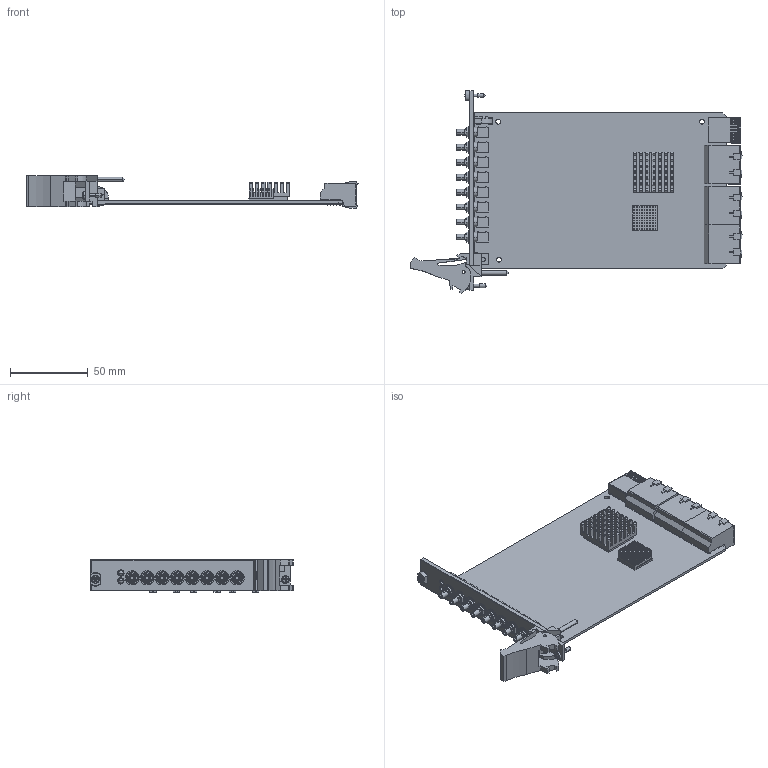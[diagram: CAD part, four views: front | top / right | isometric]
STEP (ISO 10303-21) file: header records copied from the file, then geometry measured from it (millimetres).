
FILE_DESCRIPTION((''),'2;1');
FILE_NAME('CU_PXIE-6672','2012-04-10T',('stgill'),(''),'PRO/ENGINEER BY PARAMETRIC TECHNOLOGY CORPORATION, 2010230','PRO/ENGINEER BY PARAMETRIC TECHNOLOGY CORPORATION, 2010230','');
FILE_SCHEMA(('CONFIG_CONTROL_DESIGN'));
Products named in the file (1): CU_PXIE-6672
Bounding box: 213.82 x 130.5 x 20.78 mm (x, y, z)
Volume: 81117.1 mm3; surface area: 65832.5 mm2
Topology: 2 solids, 2 shells, 6325 faces, 17115 edges, 11244 vertices
Faces by surface type: plane 5666, cylinder 571, cone 74, sphere 10, torus 4
Entity records: 208359 total; most frequent: CARTESIAN_POINT 51772, ORIENTED_EDGE 34214, DIRECTION 28379, EDGE_CURVE 17107, VECTOR 12953, LINE 12953, VERTEX_POINT 11244, AXIS2_PLACEMENT_3D 7713
